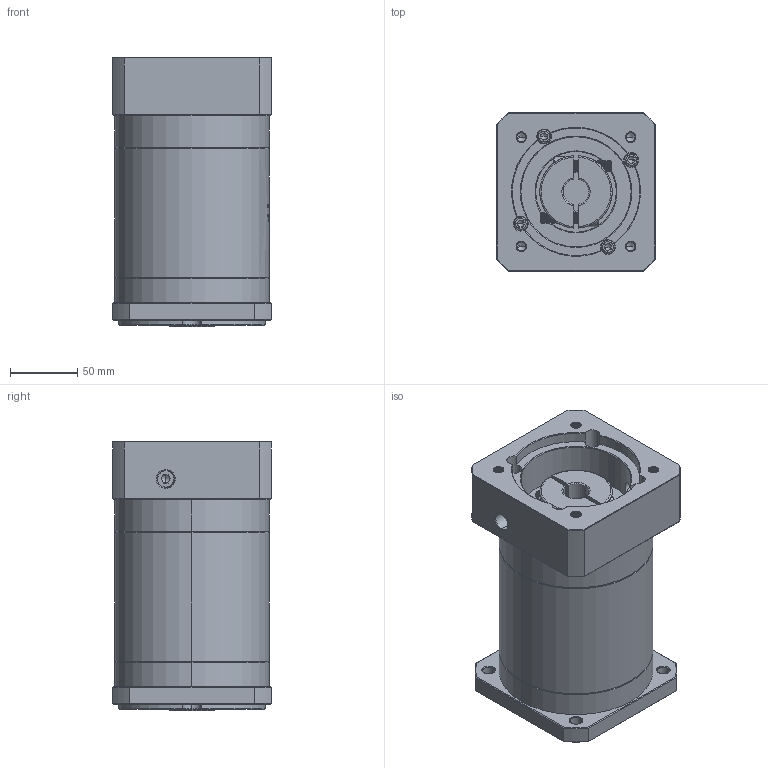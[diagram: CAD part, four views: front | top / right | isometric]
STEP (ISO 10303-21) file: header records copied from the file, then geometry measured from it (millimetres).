
FILE_DESCRIPTION (( 'STEP AP214' ), '1' );
FILE_NAME ('ZF120A-K25-L3-19-95-115-M8.step', '2023-03-07T09:39:07', ( '' ), ( '' ), 'SwSTEP 2.0', 'SolidWorks 2016', '' );
FILE_SCHEMA (( 'AUTOMOTIVE_DESIGN' ));
Length unit declared in the file: millimetre
Products named in the file (1): ZF120A-K25-L3-19-95-115-M8
Bounding box: 118 x 118 x 200.5 mm (x, y, z)
Volume: 2011033 mm3; surface area: 183894.6 mm2
Topology: 6 solids, 6 shells, 1911 faces, 5038 edges, 3221 vertices
Faces by surface type: plane 850, cylinder 396, cone 333, bspline 332
Entity records: 102486 total; most frequent: CARTESIAN_POINT 37834, ORIENTED_EDGE 10020, DIRECTION 7801, EDGE_CURVE 5010, VERTEX_POINT 3221, LINE 2705, VECTOR 2705, AXIS2_PLACEMENT_3D 2548
